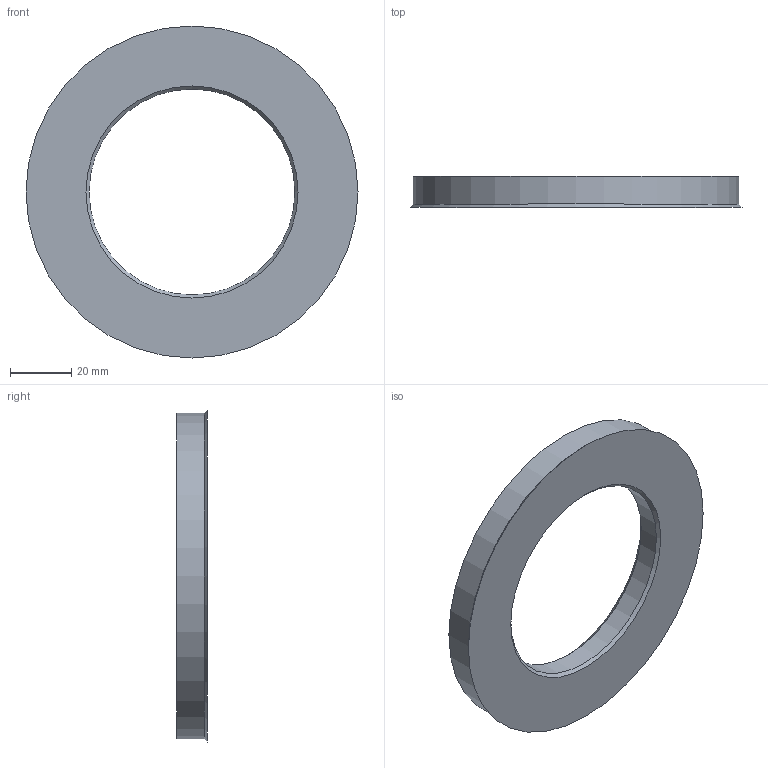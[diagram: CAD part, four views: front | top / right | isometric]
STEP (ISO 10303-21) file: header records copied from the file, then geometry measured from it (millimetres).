
FILE_DESCRIPTION(/* description */ (''),/* implementation_level */ '2;1');
FILE_NAME(/* name */ 'G:\CAD Library\Team Tasks\DIPP\11th Intake\Bradley Coles\Design Drafting\Random\Hub Rings\ipt\HubRing_106.2-67.1.stp',/* time_stamp */ '2025-07-22T13:42:55+08:00',/* author */ ('BCOLES'),/* organization */ (''),/* preprocessor_version */ 'ST-DEVELOPER v18.1',/* originating_system */ 'Autodesk Inventor 2022',/* authorisation */ '');
FILE_SCHEMA (('AUTOMOTIVE_DESIGN { 1 0 10303 214 3 1 1 }'));
Length unit declared in the file: millimetre
Products named in the file (1): HubRing_106.2-67.1
Bounding box: 108.2 x 10 x 108.2 mm (x, y, z)
Volume: 52850.3 mm3; surface area: 16203.6 mm2
Topology: 1 solids, 1 shells, 7 faces, 13 edges, 8 vertices
Faces by surface type: cone 3, cylinder 2, plane 2
Full cylindrical faces by diameter (mm): 67.1 x1, 106.2 x1
Entity records: 226 total; most frequent: DIRECTION 37, CARTESIAN_POINT 29, ORIENTED_EDGE 26, AXIS2_PLACEMENT_3D 16, EDGE_CURVE 13, EDGE_LOOP 9, CIRCLE 8, VERTEX_POINT 8
